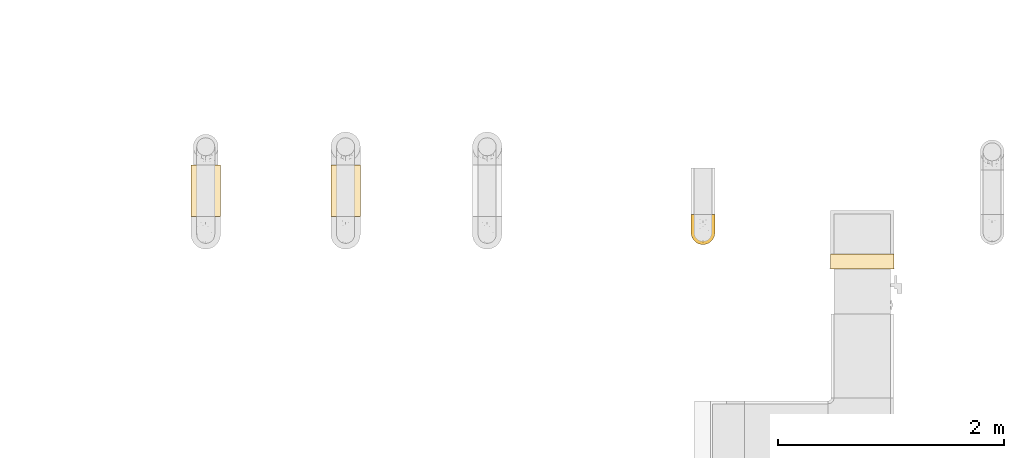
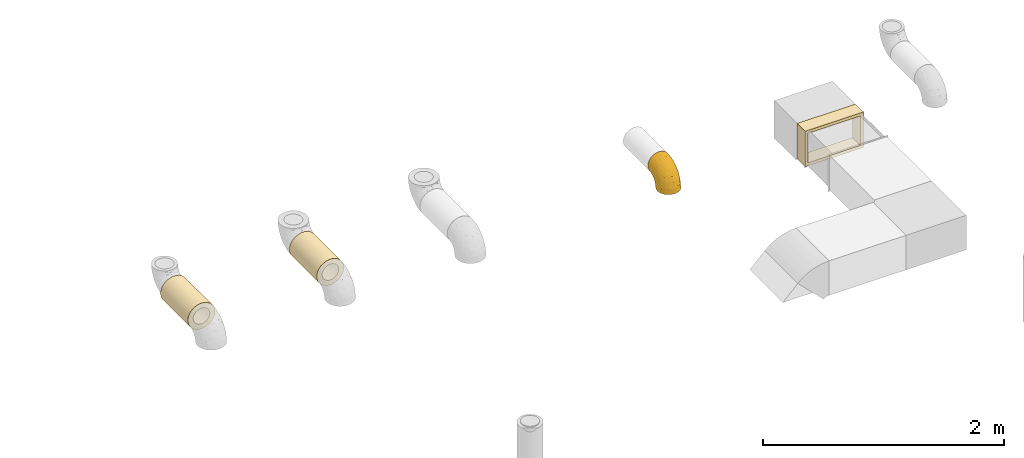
# One storey, part 2 of 14: 4 coverings.
"""IFC2X3 building model written with IfcOpenShell, lengths in millimetres."""

from ifc_helpers import new_model, entity, si_unit, converted_unit, derived_unit, direction, frame, origin_with_axes, origin_2d_with_axis, place, context, subcontext, project, spatial, hollow_rectangle, hollow_circle, extrude, open_shell, surface_model, source, transform, mapped, element, save


model = new_model("IFC2X3")

# Units and contexts
model_context = context("Model", 3, precision=0.01, world=frame((0.0, 4.29681676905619e-09, 0.0)), true_north=direction((4.01073788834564e-13, 1.0)))
plan_context = context("Plan", 3, precision=0.01, world=frame((0.0, 4.29681676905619e-09, 0.0)), true_north=direction((4.01073788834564e-13, 1.0)))
body_context = subcontext(model_context, "Body", "Model", "MODEL_VIEW")
ifc_project = project(units=[converted_unit("PLANEANGLEUNIT", "DEGREE", entity("IfcPositiveLengthMeasure", 0.0174532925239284), si_unit("PLANEANGLEUNIT", "RADIAN"), dimensions=[0, 0, 0, 0, 0, 0, 0]), si_unit("AREAUNIT", "SQUARE_METRE"), si_unit("LENGTHUNIT", "METRE", prefix="MILLI"), si_unit("MASSUNIT", "GRAM", prefix="KILO"), si_unit("POWERUNIT", "WATT"), si_unit("PRESSUREUNIT", "PASCAL", prefix="KILO"), si_unit("FORCEUNIT", "NEWTON", prefix="KILO"), si_unit("ELECTRICVOLTAGEUNIT", "VOLT"), si_unit("ELECTRICCURRENTUNIT", "AMPERE"), si_unit("THERMODYNAMICTEMPERATUREUNIT", "DEGREE_CELSIUS"), si_unit("TIMEUNIT", "SECOND"), si_unit("VOLUMEUNIT", "CUBIC_METRE"), derived_unit("LINEARVELOCITYUNIT", [(si_unit("LENGTHUNIT", "METRE"), 1), (si_unit("TIMEUNIT", "SECOND"), -1)]), derived_unit("VOLUMETRICFLOWRATEUNIT", [(si_unit("VOLUMEUNIT", "CUBIC_METRE"), 1), (si_unit("TIMEUNIT", "SECOND"), -1)]), derived_unit("THERMALTRANSMITTANCEUNIT", [(si_unit("POWERUNIT", "WATT"), 1), (si_unit("THERMODYNAMICTEMPERATUREUNIT", "KELVIN"), -1), (si_unit("AREAUNIT", "SQUARE_METRE"), -1)]), derived_unit("SOUNDPRESSUREUNIT", [(si_unit("PRESSUREUNIT", "PASCAL"), 1)])], contexts=[model_context, plan_context])

# Site, building, storey
site_placement = place(None, frame((0.0, -4.29681676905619e-09, 0.0), z_axis=(0.0, 0.0, 1.0), x_axis=(1.0, 0.0, 0.0)))
site = spatial("IfcSite", under=ifc_project, at=site_placement, CompositionType="ELEMENT")
building_placement = place(site_placement, frame((0.0, 4.29681676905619e-09, 0.0), z_axis=(0.0, 0.0, 1.0), x_axis=(1.0, 0.0, 0.0)))
building = spatial("IfcBuilding", under=site, at=building_placement, Name="mc-building", CompositionType="ELEMENT")
storey_placement = place(building_placement, frame((0.0, 0.0, 205200.0), z_axis=(0.0, 0.0, 1.0), x_axis=(1.0, 0.0, 0.0)))
storey = spatial("IfcBuildingStorey", under=building, at=storey_placement, Name="Nivå D + 1,2 m", CompositionType="ELEMENT", Elevation=205200.0)

# Coverings
shared_shape_1 = source(origin_with_axes(), body_context, "Body", "SweptSolid", [
    extrude(hollow_rectangle(XDim=560.0, YDim=360.0, WallThickness=30.0, at=origin_2d_with_axis()), frame((0.0, 0.0, 0.0), z_axis=(1.0, 0.0, 0.0), x_axis=(0.0, 1.0, 0.0)), (0.0, 0.0, 1.0), 132.5),
])
covering_1_placement = place(storey_placement, frame((347143.0, 464877.00001, 4092.5), z_axis=(0.0, 0.0, 1.0), x_axis=(0.0, 1.0, 0.0)))
element("IfcCovering", 1, at=covering_1_placement, inside=storey, Name="B-EI60", PredefinedType="INSULATION", context=body_context, shape_type="MappedRepresentation", body=[
    mapped(shared_shape_1, transform((0.0, 0.0, 0.0), scale=1.0)),
])
shared_shape_2 = source(origin_with_axes(), body_context, "Body", "SweptSolid", [
    extrude(hollow_circle(Radius=130.0, WallThickness=50.0, at=origin_2d_with_axis()), frame((0.0, 0.0, 0.0), z_axis=(1.0, 0.0, 0.0), x_axis=(0.0, 1.0, 0.0)), (0.0, 0.0, 1.0), 455.0),
])
for number, where, z_axis, x_axis in (
    (2, (341336.70568, 465796.0, 4052.5), (0.0, 0.0, 1.0), (0.0, -1.0, 0.0)),
    (3, (342573.81048, 465796.0, 4065.0), (0.0, 0.0, 1.0), (0.0, -1.0, 0.0)),
):
    element("IfcCovering", number, at=place(storey_placement, frame(where, z_axis=z_axis, x_axis=x_axis)), inside=storey, Name="B-EI60", PredefinedType="INSULATION", context=body_context, shape_type="MappedRepresentation", body=[
        mapped(shared_shape_2, transform((0.0, 0.0, 0.0), scale=1.0)),
    ])
shared_shape_3 = source(origin_with_axes(), body_context, "Body", "SurfaceModel", [
    surface_model("IfcShellBasedSurfaceModel", [(80.43282, 160.0, 67.4949), (90.93096, 160.0, 52.50296), (98.66637, 160.0, 35.91583), (-80.43616, 160.0, 67.49092), (-67.4949, 160.0, 80.43282), (-90.93355, 160.0, 52.49848), (-80.43282, 160.0, -67.4949), (-90.93096, 160.0, -52.50296), (-98.66637, 160.0, -35.91583), (-160.0, 74.24621, -74.24621), (-160.0, 105.0, 0.0), (-160.0, 101.42222, -27.176), (-160.0, 90.93267, -52.5), (-160.0, 101.42222, 27.176), (-160.0, 74.24621, 74.24621), (-160.0, 90.93267, 52.5), (-160.0, 27.176, 101.42222), (-160.0, 52.5, 90.93267), (-160.0, -74.24621, 74.24621), (-160.0, -101.42222, 27.176), (-160.0, -90.93267, 52.5), (-86.77939, -90.83203, 27.62615), (-108.30107, -99.9081, 0.0), (-58.58889, -84.82808, 0.0), (-160.0, -105.0, 0.0), (31.61963, 0.61451, 55.3243), (2.15123, -40.14693, 38.7491), (41.01717, -4.0081, 33.72929), (68.782, 58.01341, 53.26876), (42.5007, 35.24486, 70.46355), (10.42896, -40.73723, 18.66524), (-160.0, -52.5, 90.93267), (-122.57202, -63.94157, 80.80593), (-12.77389, -60.33945, 0.0), (27.3833, -27.3833, 0.0), (53.3012, 81.39518, 80.57607), (25.18839, 41.51415, 86.2733), (-27.85296, -66.69793, 23.21289), (-3.94869, 33.1736, 96.6264), (-10.61338, 0.88896, 87.36154), (60.33945, 12.77389, 0.0), (-33.30447, 2.22709, 96.08218), (-64.8935, -33.44615, 89.09515), (-75.06039, -54.87531, 77.30635), (-102.05161, -79.23207, 60.02596), (90.18061, 102.94776, 41.14349), (76.18076, 47.95142, 27.21409), (24.77586, 93.9877, 98.5575), (-111.65311, -40.18811, 94.41504), (-160.0, -27.176, 101.42222), (-46.86291, 46.86291, 105.0), (-80.0, 21.43593, 105.0), (-46.86575, 17.66698, 102.70805), (52.49848, 160.0, 90.93355), (35.91101, 160.0, 98.66813), (-115.56379, -21.49709, 101.50699), (-160.0, 0.0, 105.0), (-71.43118, -14.86908, 98.62859), (-85.76355, -0.84717, 103.58961), (103.40402, 160.0, 18.23758), (98.49705, 112.79001, 21.51201), (99.9081, 108.30107, 0.0), (84.82808, 58.58889, 0.0), (1.99266, 84.09643, 103.28614), (18.23247, 160.0, 103.40492), (-5.45187, 118.58896, 105.0), (72.62756, 112.75538, 70.97794), (-21.43593, 80.0, 105.0), (-21.61029, 49.95505, 103.64574), (105.0, 160.0, 0.0), (67.49092, 160.0, 80.43616), (0.0, 160.0, 105.0), (-118.58896, 5.45187, 105.0), (-14.25832, -38.68897, 59.65143), (7.92185, -5.45618, 72.72142), (-31.70628, -31.57649, 77.75213), (-43.24772, -66.17703, 45.69984), (-53.99583, -59.83203, 62.92615), (-55.21256, 111.13303, 95.16076), (-53.92063, 78.60244, 101.6555), (-37.39256, 100.94977, 102.24061), (-133.54849, 22.33017, 103.11394), (-106.05872, 29.7742, 103.25842), (-75.82706, 91.25175, 91.60397), (-82.40746, 110.91109, 79.85017), (-99.06949, 99.66039, 74.24437), (-124.15138, 116.31833, 17.73447), (-112.76504, 127.27364, 22.61524), (-121.10912, 121.10912, 0.0), (-51.40632, 135.85797, 92.9943), (-31.12581, 127.8665, 101.42111), (-81.01995, 44.58495, 103.04874), (-87.10885, 65.0064, 96.97359), (-122.97407, 46.0461, 97.00735), (-142.68086, 105.80511, 19.85839), (-143.64683, 99.16706, 40.18176), (-108.8908, 118.22504, 46.80649), (-113.70433, 104.50778, 57.68977), (-146.57956, 84.48537, 63.91995), (-18.23758, 160.0, 103.40402), (-137.26493, 66.64855, 83.3021), (-132.22606, 109.2931, 24.15031), (-122.6803, 110.7398, 37.17389), (-79.37771, 130.78625, 74.24437), (-111.68491, 77.36844, 83.0246), (-35.91583, 160.0, 98.66637), (-94.70904, 145.7871, 48.39929), (-52.50296, 160.0, 90.93096), (-131.41269, 102.22856, 43.55039), (-147.89083, 107.40866, 0.0), (-94.20848, 122.13386, 62.88018), (-103.11738, 146.01079, 27.17514), (-98.66813, 160.0, 35.91101), (-101.03955, 133.02761, 44.37358), (-103.40492, 160.0, 18.23247), (-107.09331, 149.4762, 0.0), (-130.47673, 89.21198, 63.91994), (-94.20008, 84.39492, 86.32712), (-138.95241, 109.18662, 0.0), (-130.03077, 115.14788, 0.0), (-106.86958, 135.94857, 26.19801), (-115.14788, 130.03077, 0.0), (-105.0, 160.0, 0.0), (-109.18662, 138.95241, 0.0), (-80.0, 21.43593, -105.0), (-118.58896, 5.45187, -105.0), (-106.05871, 29.7742, -103.25842), (-142.68087, 105.80511, -19.85836), (-101.03904, 133.02349, -44.37826), (-94.70587, 145.78416, -48.40647), (-94.20354, 122.1371, -62.88374), (-108.01098, 136.94827, -19.73025), (-112.76496, 127.2737, -22.61538), (-143.64666, 99.16709, -40.18176), (-131.41273, 102.22882, -43.54985), (-130.47615, 89.21221, -63.91995), (-146.57923, 84.48543, -63.91995), (-132.2261, 109.29318, -24.14995), (-111.68602, 77.36807, -83.02442), (-137.26493, 66.64855, -83.3021), (-37.38664, 100.94789, -102.24204), (-5.45187, 118.58896, -105.0), (-21.43593, 80.0, -105.0), (-160.0, 0.0, -105.0), (-160.0, 27.176, -101.42222), (-133.54849, 22.33017, -103.11394), (-124.15141, 116.31835, -17.73428), (-122.68042, 110.73988, -37.17355), (-160.0, 52.5, -90.93267), (-122.97407, 46.0461, -97.00735), (-51.39934, 135.85922, -92.99772), (-67.49092, 160.0, -80.43616), (-52.49848, 160.0, -90.93355), (-55.20633, 111.13534, -95.16294), (-53.92062, 78.60243, -101.65551), (-75.82964, 91.25637, -91.60121), (-103.40402, 160.0, -18.23758), (-108.89358, 118.22523, -46.80193), (-79.37456, 130.78413, -74.24805), (-103.11642, 146.00912, -27.18012), (-81.02084, 44.58327, -103.04892), (-46.86291, 46.86291, -105.0), (-35.91101, 160.0, -98.66813), (-31.12039, 127.8676, -101.42244), (-87.10739, 65.0045, -96.97458), (0.0, 160.0, -105.0), (-18.23247, 160.0, -103.40492), (-82.40976, 110.91196, -79.84811), (-113.70391, 104.50625, -57.69198), (-93.56062, 81.99506, -87.83314), (-99.06686, 99.6578, -74.24805), (-102.05188, -79.23212, -60.02598), (-160.0, -90.93267, -52.5), (-160.0, -74.24621, -74.24621), (8.88008, 77.26458, -101.1819), (44.65348, 115.34453, -92.61664), (34.35065, 68.12236, -89.45891), (52.50296, 160.0, -90.93096), (67.4949, 160.0, -80.43282), (-80.19877, -5.90357, -102.19719), (-43.05681, 22.33841, -102.95383), (-33.05933, 3.8334, -96.55755), (-118.07644, -21.90722, -101.55495), (-160.0, -27.176, -101.42222), (-160.0, -13.588, -103.21111), (-122.57254, -63.94161, -80.80597), (-10.50689, 37.73529, -99.63838), (5.93859, 20.05279, -88.13417), (-86.77943, -90.83197, -27.62637), (-160.0, -101.42222, -27.176), (80.43616, 160.0, -67.49092), (71.01151, 102.52435, -70.23213), (76.18354, 47.95612, -27.21221), (-77.25171, -31.98183, -92.83606), (-75.06127, -54.87558, -77.30642), (-30.31175, -20.21608, -84.71956), (7.93056, -5.45076, -72.71893), (48.10796, 49.71741, -72.94688), (39.19137, 12.40182, -57.40861), (-43.2479, -66.17685, -45.70035), (-0.47558, -46.42299, -29.12353), (-40.64699, -73.20115, -25.04519), (-160.0, -52.5, -90.93267), (18.23758, 160.0, -103.40402), (-116.58747, -47.44669, -91.25341), (41.01729, -4.00822, -33.72879), (35.91583, 160.0, -98.66637), (90.18288, 102.94926, -41.13909), (-29.30622, -39.54144, -69.69707), (68.7858, 58.01643, -53.26496), (98.4986, 112.79609, -21.50993), (90.93355, 160.0, -52.49848), (98.66813, 160.0, -35.91101), (0.80626, -32.00037, -53.33542), (103.40492, 160.0, -18.23247), (-60.25635, -63.13556, -62.44399)], [open_shell([[[0, 1, 2]], [[3, 4, 5]], [[6, 7, 8]], [[9, 10, 11]], [[9, 11, 12]], [[13, 14, 15]], [[13, 10, 14]], [[14, 16, 17]], [[18, 19, 20]], [[21, 22, 23]], [[22, 19, 24]], [[25, 26, 27]], [[28, 29, 25]], [[26, 30, 27]], [[31, 18, 32]], [[33, 34, 30]], [[35, 36, 29]], [[21, 20, 19]], [[33, 37, 23]], [[36, 38, 39]], [[27, 34, 40]], [[41, 42, 39]], [[43, 32, 44]], [[45, 28, 46]], [[47, 38, 36]], [[31, 48, 49]], [[50, 51, 52]], [[47, 53, 54]], [[49, 55, 56]], [[48, 42, 57]], [[57, 58, 55]], [[58, 57, 52]], [[59, 60, 61]], [[62, 46, 40]], [[63, 64, 65]], [[53, 47, 35]], [[20, 44, 18]], [[2, 1, 45]], [[45, 1, 66]], [[38, 47, 63]], [[45, 60, 2]], [[45, 66, 28]], [[0, 66, 1]], [[67, 50, 68]], [[61, 69, 59]], [[46, 62, 60]], [[70, 53, 66]], [[65, 64, 71]], [[47, 64, 63]], [[72, 58, 51]], [[73, 74, 75]], [[48, 57, 55]], [[67, 63, 65]], [[38, 63, 68]], [[68, 50, 52]], [[19, 22, 21]], [[54, 64, 47]], [[41, 52, 57]], [[0, 70, 66]], [[66, 53, 35]], [[21, 76, 44]], [[35, 28, 66]], [[61, 60, 62]], [[28, 27, 46]], [[75, 43, 77]], [[40, 46, 27]], [[21, 44, 20]], [[77, 44, 76]], [[32, 48, 31]], [[42, 48, 43]], [[43, 75, 42]], [[75, 39, 42]], [[73, 77, 76]], [[39, 75, 74]], [[26, 73, 76]], [[73, 26, 25]], [[74, 29, 36]], [[39, 38, 41]], [[74, 36, 39]], [[47, 36, 35]], [[37, 26, 76]], [[26, 37, 30]], [[76, 21, 37]], [[23, 37, 21]], [[25, 29, 74]], [[28, 35, 29]], [[73, 25, 74]], [[28, 25, 27]], [[33, 30, 37]], [[27, 30, 34]], [[75, 77, 73]], [[44, 77, 43]], [[52, 41, 38]], [[42, 41, 57]], [[51, 58, 52]], [[72, 56, 55]], [[55, 58, 72]], [[48, 55, 49]], [[38, 68, 52]], [[67, 68, 63]], [[2, 60, 59]], [[46, 60, 45]], [[44, 32, 18]], [[48, 32, 43]], [[78, 79, 80]], [[56, 72, 81]], [[51, 82, 72]], [[83, 84, 85]], [[86, 87, 88]], [[89, 78, 90]], [[82, 91, 92]], [[93, 82, 92]], [[79, 50, 67]], [[94, 13, 95]], [[85, 96, 97]], [[82, 81, 72]], [[98, 95, 15]], [[95, 13, 15]], [[17, 16, 93]], [[65, 99, 90]], [[15, 14, 98]], [[100, 17, 93]], [[86, 101, 102]], [[4, 3, 103]], [[104, 93, 92]], [[89, 90, 105]], [[14, 17, 100]], [[99, 105, 90]], [[5, 106, 3]], [[89, 4, 103]], [[105, 107, 89]], [[71, 99, 65]], [[108, 101, 94]], [[13, 94, 109]], [[110, 84, 103]], [[111, 106, 112]], [[3, 106, 103]], [[90, 78, 80]], [[87, 86, 102]], [[106, 111, 113]], [[83, 92, 79]], [[114, 115, 111]], [[78, 84, 83]], [[100, 104, 116]], [[112, 114, 111]], [[108, 102, 101]], [[97, 104, 85]], [[83, 79, 78]], [[90, 80, 65]], [[91, 79, 92]], [[87, 96, 113]], [[98, 100, 116]], [[93, 104, 100]], [[117, 92, 83]], [[84, 78, 103]], [[104, 117, 85]], [[109, 94, 118]], [[109, 10, 13]], [[86, 88, 119]], [[119, 118, 101]], [[94, 101, 118]], [[102, 96, 87]], [[111, 120, 113]], [[120, 121, 87]], [[119, 101, 86]], [[108, 94, 95]], [[95, 116, 108]], [[97, 108, 116]], [[97, 96, 102]], [[85, 84, 110]], [[108, 97, 102]], [[104, 97, 116]], [[4, 89, 107]], [[103, 78, 89]], [[106, 113, 110]], [[112, 106, 5]], [[82, 51, 91]], [[81, 93, 16]], [[51, 50, 91]], [[79, 91, 50]], [[93, 81, 82]], [[56, 81, 16]], [[100, 98, 14]], [[95, 98, 116]], [[79, 67, 80]], [[65, 80, 67]], [[115, 114, 122]], [[115, 123, 111]], [[106, 110, 103]], [[113, 96, 110]], [[85, 110, 96]], [[92, 117, 104]], [[83, 85, 117]], [[123, 120, 111]], [[87, 113, 120]], [[121, 120, 123]], [[121, 88, 87]], [[124, 125, 126]], [[118, 127, 109]], [[128, 129, 130]], [[131, 128, 132]], [[133, 127, 134]], [[133, 135, 136]], [[137, 118, 119]], [[138, 139, 135]], [[140, 141, 142]], [[9, 12, 136]], [[143, 144, 145]], [[146, 132, 147]], [[148, 9, 139]], [[144, 148, 149]], [[150, 151, 152]], [[126, 145, 149]], [[153, 154, 155]], [[115, 122, 156]], [[149, 139, 138]], [[157, 147, 132]], [[130, 129, 158]], [[136, 139, 9]], [[129, 128, 159]], [[7, 129, 8]], [[126, 160, 124]], [[6, 151, 158]], [[129, 6, 158]], [[115, 156, 159]], [[154, 142, 161]], [[157, 132, 128]], [[127, 137, 134]], [[152, 162, 150]], [[140, 154, 153]], [[153, 163, 140]], [[162, 163, 150]], [[160, 126, 164]], [[163, 153, 150]], [[133, 12, 11]], [[165, 141, 166]], [[11, 109, 127]], [[166, 141, 163]], [[166, 163, 162]], [[153, 155, 167]], [[148, 139, 149]], [[160, 154, 161]], [[159, 156, 8]], [[155, 154, 164]], [[168, 147, 157]], [[168, 138, 135]], [[169, 170, 155]], [[149, 138, 164]], [[169, 155, 164]], [[167, 155, 170]], [[11, 10, 109]], [[146, 137, 119]], [[11, 127, 133]], [[146, 88, 132]], [[88, 146, 119]], [[137, 146, 147]], [[132, 88, 121]], [[131, 123, 115]], [[137, 147, 134]], [[137, 127, 118]], [[168, 134, 147]], [[135, 133, 134]], [[130, 158, 167]], [[168, 157, 170]], [[138, 168, 170]], [[134, 168, 135]], [[8, 129, 159]], [[129, 7, 6]], [[153, 158, 150]], [[151, 150, 158]], [[145, 126, 125]], [[164, 126, 149]], [[154, 160, 164]], [[161, 124, 160]], [[143, 145, 125]], [[149, 145, 144]], [[133, 136, 12]], [[139, 136, 135]], [[141, 140, 163]], [[142, 154, 140]], [[131, 115, 159]], [[164, 138, 169]], [[170, 169, 138]], [[130, 170, 157]], [[153, 167, 158]], [[170, 130, 167]], [[157, 128, 130]], [[128, 131, 159]], [[131, 121, 123]], [[121, 131, 132]], [[171, 172, 173]], [[174, 175, 176]], [[175, 177, 178]], [[179, 180, 181]], [[182, 183, 184]], [[173, 185, 171]], [[174, 186, 142]], [[181, 180, 186]], [[176, 187, 186]], [[124, 161, 180]], [[172, 188, 189]], [[178, 190, 191]], [[22, 24, 189]], [[40, 192, 62]], [[179, 193, 182]], [[171, 188, 172]], [[194, 193, 195]], [[196, 197, 198]], [[23, 22, 188]], [[199, 200, 201]], [[187, 196, 195]], [[202, 185, 173]], [[188, 199, 201]], [[203, 174, 141]], [[174, 142, 141]], [[194, 185, 204]], [[192, 40, 205]], [[124, 179, 125]], [[141, 165, 203]], [[203, 206, 175]], [[175, 178, 191]], [[181, 195, 193]], [[190, 207, 191]], [[204, 183, 182]], [[194, 195, 208]], [[174, 203, 175]], [[184, 143, 125]], [[207, 192, 209]], [[192, 207, 210]], [[34, 205, 40]], [[207, 211, 212]], [[199, 213, 200]], [[191, 197, 176]], [[211, 207, 190]], [[61, 210, 214]], [[210, 62, 192]], [[69, 61, 214]], [[198, 213, 196]], [[210, 212, 214]], [[209, 191, 207]], [[197, 191, 209]], [[193, 179, 181]], [[191, 176, 175]], [[177, 175, 206]], [[22, 189, 188]], [[200, 34, 33]], [[205, 209, 192]], [[208, 215, 194]], [[188, 171, 199]], [[198, 197, 209]], [[187, 197, 196]], [[209, 205, 198]], [[205, 200, 213]], [[205, 213, 198]], [[215, 208, 213]], [[34, 200, 205]], [[33, 23, 201]], [[187, 195, 181]], [[195, 196, 208]], [[187, 181, 186]], [[187, 176, 197]], [[196, 213, 208]], [[215, 213, 199]], [[199, 171, 215]], [[171, 194, 215]], [[124, 180, 179]], [[180, 161, 142]], [[142, 186, 180]], [[186, 174, 176]], [[33, 201, 200]], [[23, 188, 201]], [[210, 61, 62]], [[212, 210, 207]], [[204, 185, 202]], [[171, 185, 194]], [[183, 204, 202]], [[194, 204, 193]], [[125, 179, 182]], [[184, 125, 182]], [[204, 182, 193]], [[54, 53, 64]], [[64, 99, 71]], [[64, 53, 0]], [[2, 59, 0]], [[64, 0, 99]], [[53, 70, 0]], [[99, 0, 212]], [[105, 99, 4]], [[4, 107, 105]], [[99, 112, 4]], [[112, 122, 114]], [[5, 4, 112]], [[99, 212, 112]], [[112, 156, 122]], [[0, 59, 69]], [[69, 214, 212]], [[112, 212, 156]], [[211, 156, 212]], [[190, 178, 206]], [[206, 156, 211]], [[206, 178, 177]], [[206, 211, 190]], [[206, 203, 156]], [[8, 156, 6]], [[6, 156, 162]], [[165, 166, 162]], [[6, 152, 151]], [[6, 162, 152]], [[156, 203, 162]], [[203, 165, 162]], [[212, 0, 69]], [[10, 148, 16]], [[148, 10, 9]], [[148, 49, 16]], [[10, 16, 14]], [[16, 49, 56]], [[148, 144, 143]], [[183, 49, 143]], [[189, 183, 202]], [[172, 189, 202]], [[172, 202, 173]], [[49, 183, 189]], [[31, 19, 18]], [[24, 31, 49]], [[19, 31, 24]], [[49, 189, 24]], [[143, 49, 148]]])]),
])
covering_2_placement = place(storey_placement, frame((345734.4963, 465196.0, 4065.0), z_axis=(1.0, 0.0, 0.0), x_axis=(0.0, -1.0, 0.0)))
element("IfcCovering", 4, at=covering_2_placement, inside=storey, Name="B-EI60", PredefinedType="INSULATION", context=body_context, shape_type="MappedRepresentation", body=[
    mapped(shared_shape_3, transform((0.0, 0.0, 0.0), scale=1.0)),
])

save(model, "model.ifc")
